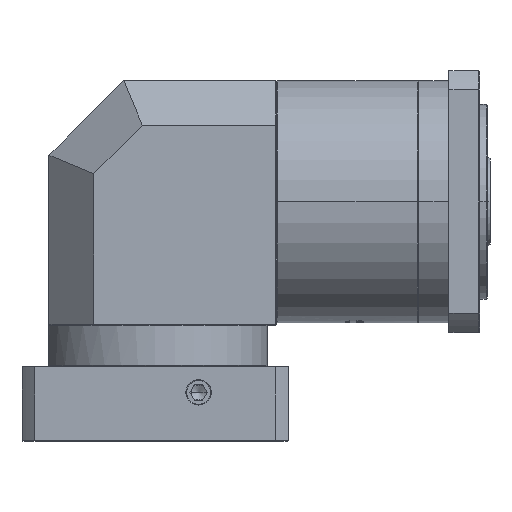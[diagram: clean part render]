
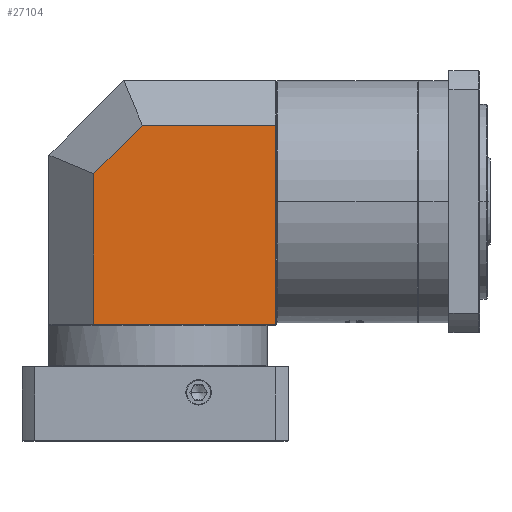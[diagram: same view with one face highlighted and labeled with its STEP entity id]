
A CAD part, top view. The second image highlights one B-rep face of the part: STEP entity #27104.
In plain terms, the highlighted planar face has unit normal (0, 0, 1).
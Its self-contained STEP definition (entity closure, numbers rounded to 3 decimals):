
#914 = DIRECTION ( 'NONE',  ( -0.707, -0.707, 0. ) ) ;
#13496 = DIRECTION ( 'NONE',  ( 0., -1., 0. ) ) ;
#14837 = CARTESIAN_POINT ( 'NONE',  ( 19.685, -24.653, 348.967 ) ) ;
#15855 = VECTOR ( 'NONE', #13496, 1000. ) ;
#22109 = CARTESIAN_POINT ( 'NONE',  ( -55.915, -24.653, 348.967 ) ) ;
#27104 = ADVANCED_FACE ( 'NONE', ( #119956 ), #103138, .T. ) ;
#28202 = CARTESIAN_POINT ( 'NONE',  ( 19.685, -76.403, 348.967 ) ) ;
#29982 = AXIS2_PLACEMENT_3D ( 'NONE', #69795, #36008, #48296 ) ;
#32808 = VECTOR ( 'NONE', #914, 1000. ) ;
#36008 = DIRECTION ( 'NONE',  ( 0., 0., 1. ) ) ;
#36566 = VECTOR ( 'NONE', #54145, 1000. ) ;
#46955 = EDGE_CURVE ( 'NONE', #123999, #110417, #58612, .T. ) ;
#47306 = CARTESIAN_POINT ( 'NONE',  ( 19.685, -157.653, 348.967 ) ) ;
#47471 = ORIENTED_EDGE ( 'NONE', *, *, #46955, .T. ) ;
#48296 = DIRECTION ( 'NONE',  ( 1., 0., 0. ) ) ;
#53001 = ORIENTED_EDGE ( 'NONE', *, *, #140905, .T. ) ;
#53163 = VERTEX_POINT ( 'NONE', #144719 ) ;
#54145 = DIRECTION ( 'NONE',  ( 0., 1., 0. ) ) ;
#55148 = VECTOR ( 'NONE', #116023, 1000. ) ;
#58012 = EDGE_CURVE ( 'NONE', #110417, #95502, #134564, .T. ) ;
#58612 = LINE ( 'NONE', #22109, #129003 ) ;
#65770 = DIRECTION ( 'NONE',  ( -1., 0., 0. ) ) ;
#68104 = CARTESIAN_POINT ( 'NONE',  ( -69.588, -24.653, 348.967 ) ) ;
#68974 = ORIENTED_EDGE ( 'NONE', *, *, #58012, .T. ) ;
#69795 = CARTESIAN_POINT ( 'NONE',  ( -55.915, -76.403, 348.967 ) ) ;
#71395 = CARTESIAN_POINT ( 'NONE',  ( -55.915, -157.653, 348.967 ) ) ;
#74449 = CARTESIAN_POINT ( 'NONE',  ( -69.588, -24.653, 348.967 ) ) ;
#75500 = ORIENTED_EDGE ( 'NONE', *, *, #136917, .F. ) ;
#77839 = LINE ( 'NONE', #71395, #55148 ) ;
#80659 = CARTESIAN_POINT ( 'NONE',  ( -102.015, -76.403, 348.967 ) ) ;
#82920 = ORIENTED_EDGE ( 'NONE', *, *, #125410, .T. ) ;
#86070 = LINE ( 'NONE', #80659, #15855 ) ;
#93798 = EDGE_LOOP ( 'NONE', ( #75500, #82920, #47471, #68974, #53001 ) ) ;
#95502 = VERTEX_POINT ( 'NONE', #144334 ) ;
#103138 = PLANE ( 'NONE',  #29982 ) ;
#110110 = LINE ( 'NONE', #28202, #36566 ) ;
#110417 = VERTEX_POINT ( 'NONE', #74449 ) ;
#116023 = DIRECTION ( 'NONE',  ( -1., 0., 0. ) ) ;
#119956 = FACE_OUTER_BOUND ( 'NONE', #93798, .T. ) ;
#122776 = VERTEX_POINT ( 'NONE', #47306 ) ;
#123999 = VERTEX_POINT ( 'NONE', #14837 ) ;
#125410 = EDGE_CURVE ( 'NONE', #122776, #123999, #110110, .T. ) ;
#129003 = VECTOR ( 'NONE', #65770, 1000. ) ;
#134564 = LINE ( 'NONE', #68104, #32808 ) ;
#136917 = EDGE_CURVE ( 'NONE', #122776, #53163, #77839, .T. ) ;
#140905 = EDGE_CURVE ( 'NONE', #95502, #53163, #86070, .T. ) ;
#144334 = CARTESIAN_POINT ( 'NONE',  ( -102.015, -57.08, 348.967 ) ) ;
#144719 = CARTESIAN_POINT ( 'NONE',  ( -102.015, -157.653, 348.967 ) ) ;
